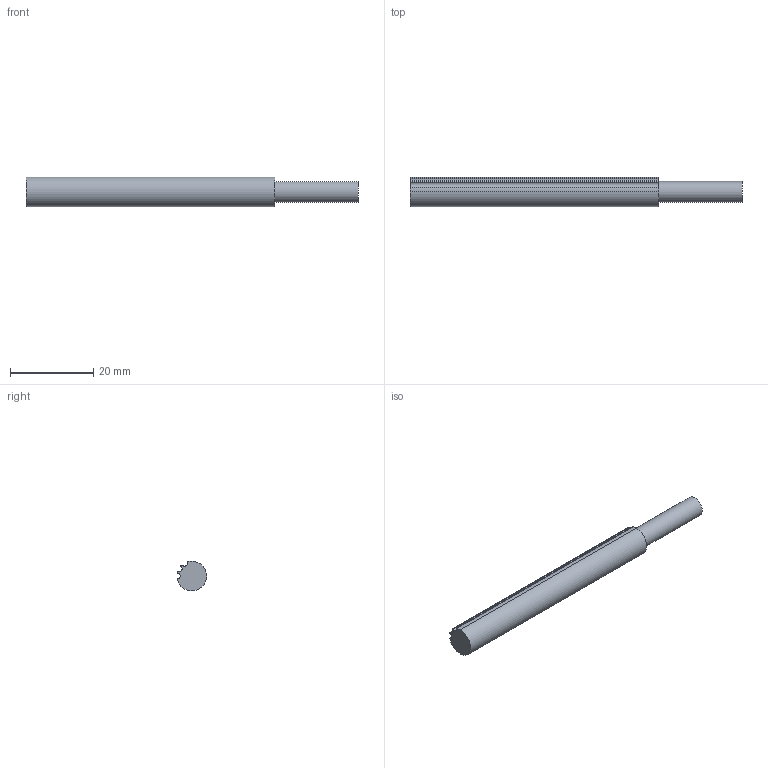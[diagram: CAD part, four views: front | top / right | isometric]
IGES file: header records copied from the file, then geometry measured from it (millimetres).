
Start section: Data from Parasolid IGES Translator 28.1.247, Copyright(c) 2006 Siemens PLM Software. All Rights Reserved.
Global section: file name: P12-2GT-60.igs; native system: By Siemens PLM Incorporated; preprocessor: XPlus GENERIC/IGES 28.1.247; author: Noname; organization: Noname; date: 20260515.060633; units: millimetre
Bounding box: 80 x 7.04 x 7.13 mm (x, y, z)
Surface area: 1850.7 mm2 (no closed solid volume)
Topology: 0 solids, 0 shells, 19 faces, 96 edges, 94 vertices
Faces by surface type: revolution 16, extrusion 3
